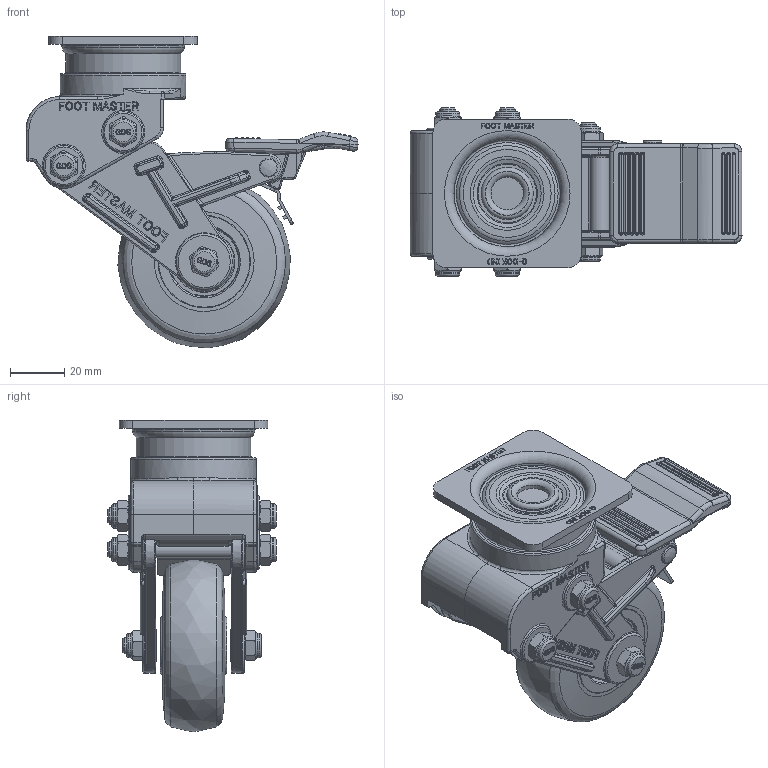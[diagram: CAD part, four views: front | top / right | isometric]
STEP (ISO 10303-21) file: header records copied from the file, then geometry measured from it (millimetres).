
FILE_DESCRIPTION(/* description */ (''),/* implementation_level */ '2;1');
FILE_NAME(/* name */ 'C:\Users\admin\Desktop\JYS\개발품\상세설계_20220328\홈페이지용 도면\GDS-65-BRF-EUS.stp',/* time_stamp */ '2023-03-08T15:12:12+09:00',/* author */ ('admin'),/* organization */ (''),/* preprocessor_version */ 'ST-DEVELOPER v18.1',/* originating_system */ 'Autodesk Inventor 2021',/* authorisation */ '');
FILE_SCHEMA (('AUTOMOTIVE_DESIGN { 1 0 10303 214 3 1 1 }'));
Products named in the file (1): GDS-65_BRF_REV01_Shrinkwrap_1
Bounding box: 122.96 x 62.3 x 115.48 mm (x, y, z)
Volume: 165224.8 mm3; surface area: 60540.2 mm2
Topology: 1 solids, 1 shells, 2661 faces, 6823 edges, 4264 vertices
Faces by surface type: plane 921, bspline 844, cylinder 534, cone 161, torus 149, sphere 52
Full cylindrical faces by diameter (mm): 2 x1, 4 x3, 6 x5, 7 x2, 8.8 x3, 9 x6, 12 x1, 17.216 x2, 18 x1, 19.3 x1, 20 x2, 22 x2, 22.784 x2, 42.5 x1, 46.5 x1
Entity records: 92851 total; most frequent: CARTESIAN_POINT 30217, ORIENTED_EDGE 13566, DIRECTION 10686, EDGE_CURVE 6783, VERTEX_POINT 4264, AXIS2_PLACEMENT_3D 3745, LINE 3196, VECTOR 3196
